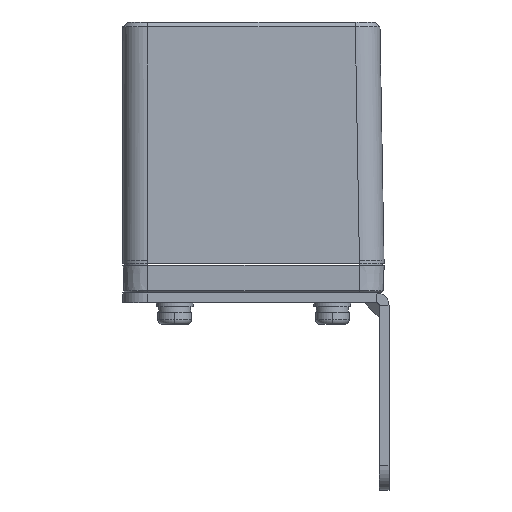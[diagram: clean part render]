
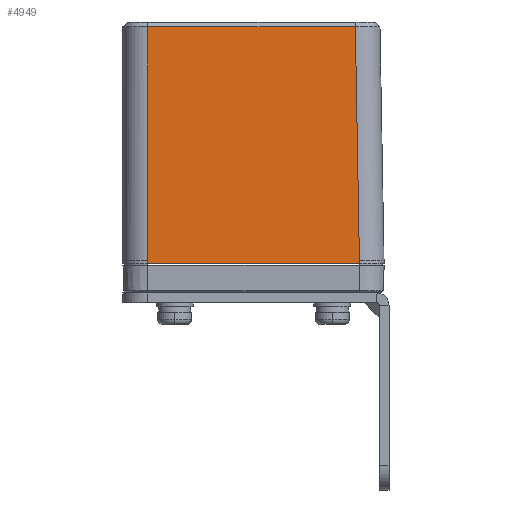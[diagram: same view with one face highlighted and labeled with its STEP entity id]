
A CAD part, left-side view. The second image highlights one B-rep face of the part: STEP entity #4949.
In plain terms, the highlighted planar face has unit normal (-1, 0, 0.018).
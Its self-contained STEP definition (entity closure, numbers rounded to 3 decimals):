
#1341=DIRECTION('',(0.,1.,0.));
#1342=VECTOR('',#1341,42.163);
#1343=CARTESIAN_POINT('',(-91.162,-10.313,
23.65));
#1344=LINE('',#1343,#1342);
#1345=DIRECTION('',(0.017,0.017,1.));
#1346=VECTOR('',#1345,48.015);
#1347=CARTESIAN_POINT('',(-92.,-11.151,-24.35));
#1348=LINE('',#1347,#1346);
#1349=DIRECTION('',(0.,1.,0.));
#1350=VECTOR('',#1349,43.001);
#1351=CARTESIAN_POINT('',(-92.,-11.151,-24.35));
#1352=LINE('',#1351,#1350);
#1353=DIRECTION('',(0.017,0.,1.));
#1354=VECTOR('',#1353,48.007);
#1355=CARTESIAN_POINT('',(-92.,31.85,-24.35));
#1356=LINE('',#1355,#1354);
#1791=CARTESIAN_POINT('',(-92.,-11.151,-24.35));
#1824=CARTESIAN_POINT('',(-92.,31.85,-24.35));
#2806=CARTESIAN_POINT('',(-91.162,-10.313,
23.65));
#2807=CARTESIAN_POINT('',(-91.162,31.85,23.65));
#2808=VERTEX_POINT('',#2806);
#2809=VERTEX_POINT('',#2807);
#2813=VERTEX_POINT('',#1791);
#2814=VERTEX_POINT('',#1824);
#4934=CARTESIAN_POINT('',(-92.,37.97,-24.35));
#4935=DIRECTION('',(-1.,0.,0.017));
#4936=DIRECTION('',(0.,1.,0.));
#4937=AXIS2_PLACEMENT_3D('',#4934,#4935,#4936);
#4938=PLANE('',#4937);
#4940=ORIENTED_EDGE('',*,*,#4939,.F.);
#4942=ORIENTED_EDGE('',*,*,#4941,.F.);
#4944=ORIENTED_EDGE('',*,*,#4943,.T.);
#4946=ORIENTED_EDGE('',*,*,#4945,.T.);
#4947=EDGE_LOOP('',(#4940,#4942,#4944,#4946));
#4948=FACE_OUTER_BOUND('',#4947,.F.);
#4949=ADVANCED_FACE('',(#4948),#4938,.T.);
#4939=EDGE_CURVE('',#2808,#2809,#1344,.T.);
#4941=EDGE_CURVE('',#2813,#2808,#1348,.T.);
#4943=EDGE_CURVE('',#2813,#2814,#1352,.T.);
#4945=EDGE_CURVE('',#2814,#2809,#1356,.T.);
